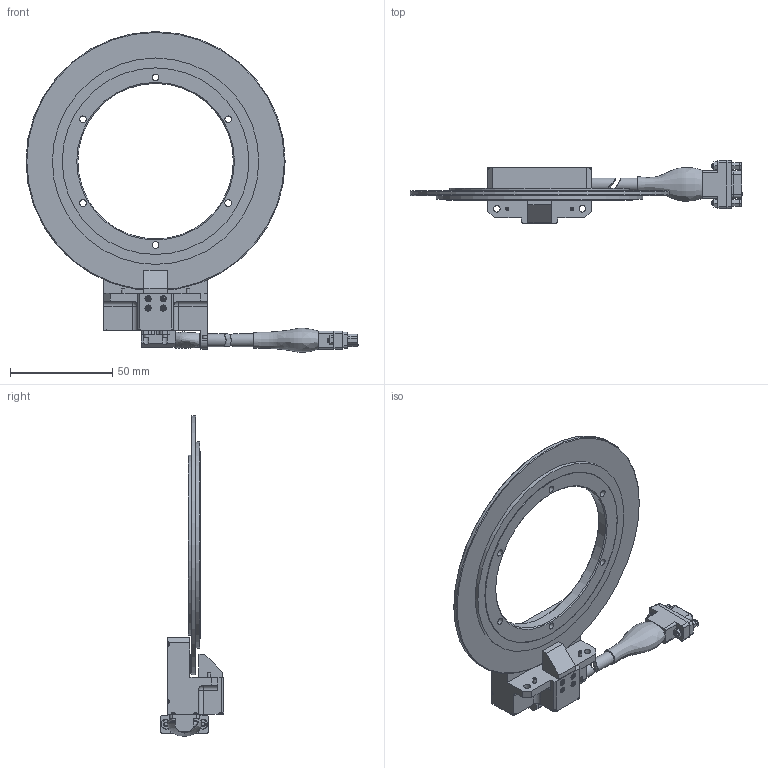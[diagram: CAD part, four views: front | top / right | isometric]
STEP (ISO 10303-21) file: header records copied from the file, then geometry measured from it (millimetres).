
FILE_DESCRIPTION (( 'STEP AP214' ), '1' );
FILE_NAME ('190-0315-03 Encoder Outline, 5 inch.STEP', '2020-07-17T20:33:31', ( '' ), ( '' ), 'SwSTEP 2.0', 'SolidWorks 2019', '' );
FILE_SCHEMA (( 'AUTOMOTIVE_DESIGN' ));
Length unit declared in the file: inch
Products named in the file (3): 190-0315-03 Encoder Outline, 5 inch; Disk Hub Assy, 5 inch; AIME-II Readhead Assy, Left Exit
Assembly tree (2 placements, depth 2):
  190-0315-03 Encoder Outline, 5 inch
    Disk Hub Assy, 5 inch
    AIME-II Readhead Assy, Left Exit
Bounding box: 162.69 x 31.12 x 157.18 mm (x, y, z)
Volume: 65955.2 mm3; surface area: 33783.5 mm2
Topology: 3 solids, 15 shells, 1571 faces, 3921 edges, 2554 vertices
Faces by surface type: plane 1048, cylinder 225, bspline 213, cone 81, sphere 2, torus 2
Full cylindrical faces by diameter (mm): 0.508 x15, 0.635 x15, 1.513 x1, 1.524 x12, 1.575 x2, 1.59 x2, 1.694 x2, 1.778 x12, 2.17 x4, 2.2 x2, 2.311 x2, 2.339 x1, 2.36 x2, 2.4 x2, 2.438 x18, 3.251 x2, 3.264 x6, 6.35 x3, 76.2 x1, 88.138 x1, 89.662 x1, 91.44 x1, 101.143 x1, 127 x1
Entity records: 88665 total; most frequent: CARTESIAN_POINT 33053, ORIENTED_EDGE 7246, DIRECTION 6444, EDGE_CURVE 3623, LINE 2616, VECTOR 2616, VERTEX_POINT 2462, EDGE_LOOP 1999
